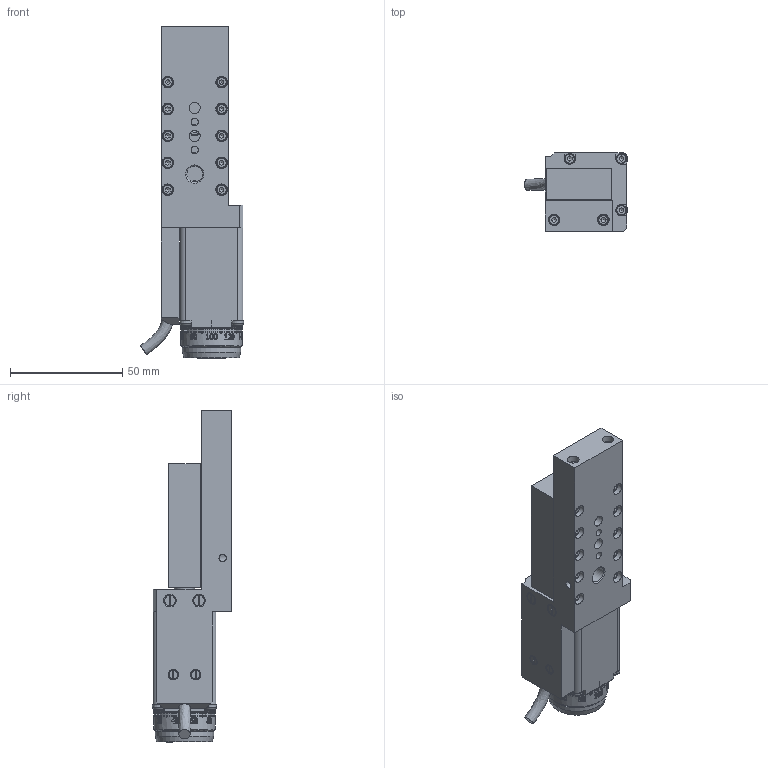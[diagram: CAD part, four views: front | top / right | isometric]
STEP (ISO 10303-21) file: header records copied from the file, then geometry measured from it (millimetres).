
FILE_DESCRIPTION(/* description */ (''),/* implementation_level */ '2;1');
FILE_NAME(/* name */ 'U:\KONSTRUKTORIAI\DOKUMENTACIJA\8\8MT173\8MT173-30\STEP\8MT173-30 SB.stp',/* time_stamp */ '2020-10-12T14:54:35+03:00',/* author */ ('dsgn36'),/* organization */ (''),/* preprocessor_version */ 'ST-DEVELOPER v15.2',/* originating_system */ 'Autodesk Inventor 2014',/* authorisation */ '');
FILE_SCHEMA (('CONFIG_CONTROL_DESIGN'));
Products named in the file (2): Part18; 8MT173-30 SB
Bounding box: 46.04 x 35.3 x 148 mm (x, y, z)
Volume: 111011.1 mm3; surface area: 31706.8 mm2
Topology: 1 solids, 7 shells, 1799 faces, 4910 edges, 3229 vertices
Faces by surface type: plane 969, bspline 356, cylinder 294, cone 110, torus 42, sphere 28
Full cylindrical faces by diameter (mm): 2 x4, 2.5 x3, 3.2 x4, 3.242 x3, 3.5 x1, 4.5 x18, 4.917 x2, 5 x10, 5.2 x12, 7.1 x1, 8.3 x1, 9 x1, 25 x1, 26 x1, 27.5 x1
Entity records: 119113 total; most frequent: CARTESIAN_POINT 77354, ORIENTED_EDGE 9446, DIRECTION 7312, EDGE_CURVE 4723, VERTEX_POINT 3174, LINE 2442, VECTOR 2442, AXIS2_PLACEMENT_3D 2435
